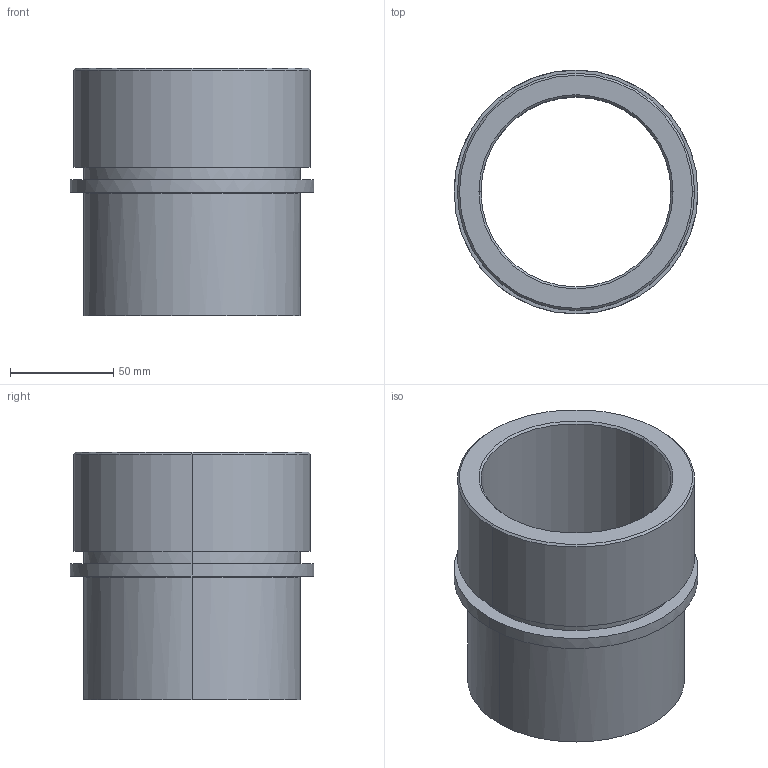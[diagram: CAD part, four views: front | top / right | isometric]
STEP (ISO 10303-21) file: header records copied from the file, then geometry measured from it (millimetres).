
FILE_DESCRIPTION(('CATIA V5 STEP Exchange'),'2;1');
FILE_NAME('C:\Users\Utente\Desktop\IO LAVORO\3D X SITO CF\X SITO\735\735-80.stp','2021-01-16T19:15:07+00:00',('none'),('none'),'CATIA Version 5 Release 20 GA (IN-10)','CATIA V5 STEP AP203','none');
FILE_SCHEMA(('CONFIG_CONTROL_DESIGN'));
Length unit declared in the file: millimetre
Products named in the file (1): 735-80
Assembly tree (1 placements, depth 2):
  735-80
    #58
Bounding box: 118 x 118 x 120 mm (x, y, z)
Volume: 335485.4 mm3; surface area: 87935.1 mm2
Topology: 1 solids, 1 shells, 25 faces, 50 edges, 30 vertices
Faces by surface type: cylinder 10, cone 6, plane 5, torus 4
Entity records: 851 total; most frequent: CARTESIAN_POINT 282, ORIENTED_EDGE 100, DIRECTION 96, AXIS2_PLACEMENT_3D 53, EDGE_CURVE 50, EDGE_LOOP 30, VERTEX_POINT 30, CIRCLE 26
